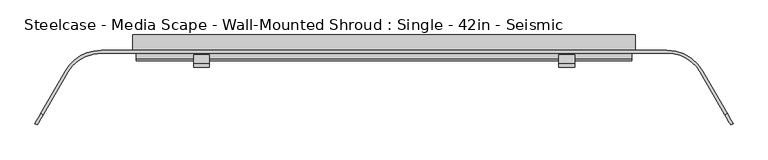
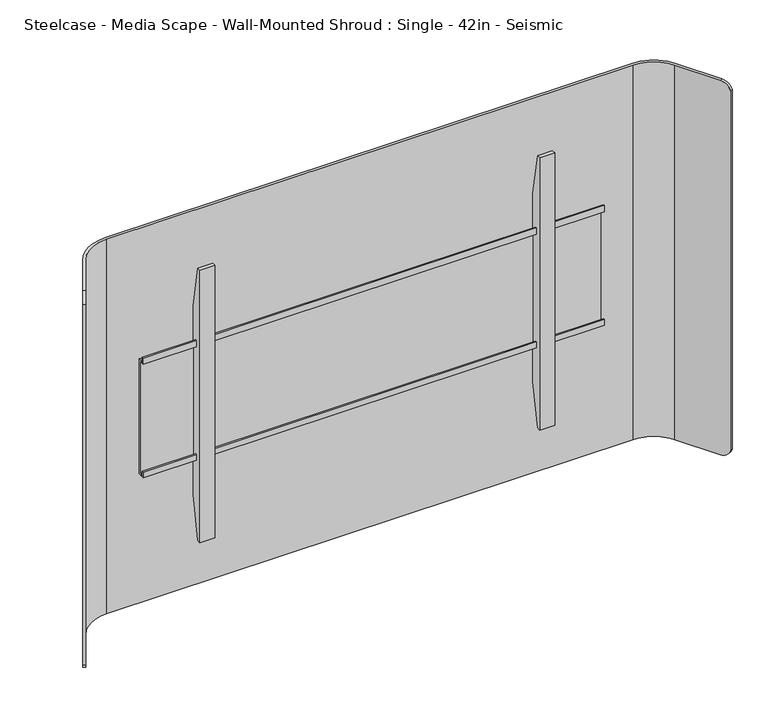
"""IFC4 building model written with IfcOpenShell, lengths in millimetres: furniture geometry, Steelcase - Media Scape - Wall-Mounted Shroud : Single - 42in - Seismic."""

from ifc_helpers import new_model, si_unit, frame, origin, place, context, project, spatial, polyline, circle_curve, outline, extrude, source, transform, mapped, element, save
from ifc_brep_helpers import plane_surface, cylinder_surface, revolved_surface, advanced_brep


def steelcase_media_scape_wall_mounted_shroud_single_42in_ae8f179e(model_context):
    return source(origin(), model_context, "Body", "SolidModel", [
        extrude(outline(polyline([(-42.4942785, 1288.4504726), (-42.4942785, 1300.4645649), (-39.8272175, 1300.4645649), (-39.8272175, 1291.117461), (-29.9720009, 1291.117461), (-29.9720009, 1076.7922438), (-42.3164551, 1076.7922438), (-42.3164551, 1087.7142515), (-39.649394, 1087.7142515), (-39.649394, 1079.457052), (-32.6531824, 1079.457052), (-32.6531824, 1288.4504726), (-42.4942785, 1288.4504726)])), frame((-406.4, 0.0, 0.0), z_axis=(1.0, 0.0, 0.0), x_axis=(0.0, 1.0, 0.0)), (0.0, 0.0, 1.0), 812.8),
        extrude(outline(polyline([(-32.6531824, 1359.3971148), (-32.6531824, 1007.5825607), (-46.5049349, 929.9546949), (-53.3399828, 929.9546949), (-53.3399828, 1437.9547192), (-46.5050076, 1437.9547192), (-32.6531824, 1359.3971148)])), frame((286.6392868, 0.0, 0.0), z_axis=(1.0, 0.0, 0.0), x_axis=(0.0, 1.0, 0.0)), (0.0, 0.0, 1.0), 26.1592872),
        extrude(outline(polyline([(-32.6531824, 1359.3971148), (-32.6531824, 1007.5825607), (-46.5049349, 929.9546949), (-53.3399828, 929.9546949), (-53.3399828, 1437.9547192), (-46.5050076, 1437.9547192), (-32.6531824, 1359.3971148)])), frame((-312.798574, 0.0, 0.0), z_axis=(1.0, 0.0, 0.0), x_axis=(0.0, 1.0, 0.0)), (0.0, 0.0, 1.0), 26.1592872),
        extrude(outline(polyline([(412.75, -25.4), (-412.75, -25.4), (-412.75, 0.0), (412.75, 0.0), (412.75, -25.4)])), frame((0.0, 0.0, 835.914), z_axis=(0.0, 0.0, 1.0), x_axis=(1.0, 0.0, 0.0)), (0.0, 0.0, 1.0), 76.2508167),
        advanced_brep(
        [(-519.5586135, -61.722, 1534.414), (-464.566002, -29.9720009, 1534.414), (464.566, -29.9720009, 1534.414), (519.5586135, -61.722, 1534.414), (559.679586, -131.2135628, 1534.414), (563.6390541, -128.9275628, 1534.414), (523.5180817, -59.436, 1534.414), (464.566002, -25.4, 1534.414), (-464.566, -25.4, 1534.414), (-523.5180817, -59.436, 1534.414), (-563.6421659, -128.9329524, 1534.414), (-559.6826977, -131.2189524, 1534.414), (-523.5180817, -59.436, 835.914), (-464.566002, -25.4, 835.914), (464.566, -25.4, 835.914), (523.5180817, -59.436, 835.914), (563.6906629, -129.0169518, 835.914), (559.7311948, -131.3029518, 835.914), (519.5586135, -61.722, 835.914), (464.566002, -29.9720009, 835.914), (-464.566, -29.9720009, 835.914), (-519.5586135, -61.722, 835.914), (-559.7454014, -131.3275584, 835.914), (-563.7048695, -129.0415584, 835.914), (-573.2090632, -145.5033047, 849.5242766), (-573.2090632, -145.5033047, 1520.4227735), (-569.2495951, -147.7893047, 1520.4227735), (-569.2495951, -147.7893047, 849.5242766), (569.2270866, -147.7503189, 849.4756893), (569.2270866, -147.7503189, 1520.5433849), (573.1865547, -145.4643189, 1520.5433849), (573.1865547, -145.4643189, 849.4756893)],
        [
            (0, 1, circle_curve(frame((-464.566002, -93.4719991, 1534.414), z_axis=(0.0, 0.0, -1.0), x_axis=(0.0, 1.0, 0.0)), 63.4999981)),
            (1, 2),
            (2, 3, circle_curve(frame((464.566002, -93.4719991, 1534.414), z_axis=(0.0, 0.0, -1.0), x_axis=(0.0, 1.0, 0.0)), 63.4999981)),
            (3, 4),
            (4, 5),
            (5, 6),
            (6, 7, circle_curve(frame((464.5660004, -93.472, 1534.414), z_axis=(0.0, 0.0, 1.0), x_axis=(0.0, 1.0, 0.0)), 68.072)),
            (7, 8),
            (8, 9, circle_curve(frame((-464.5660004, -93.472, 1534.414), z_axis=(0.0, 0.0, 1.0), x_axis=(0.0, 1.0, 0.0)), 68.072)),
            (9, 10),
            (10, 11),
            (11, 0),
            (12, 13, circle_curve(frame((-464.5660004, -93.472, 835.914), z_axis=(0.0, 0.0, -1.0), x_axis=(0.0, 1.0, 0.0)), 68.072)),
            (13, 14),
            (14, 15, circle_curve(frame((464.5660004, -93.472, 835.914), z_axis=(0.0, 0.0, -1.0), x_axis=(0.0, 1.0, 0.0)), 68.072)),
            (15, 16),
            (16, 17),
            (17, 18),
            (18, 19, circle_curve(frame((464.566002, -93.4719991, 835.914), z_axis=(0.0, 0.0, 1.0), x_axis=(0.0, 1.0, 0.0)), 63.4999981)),
            (19, 20),
            (20, 21, circle_curve(frame((-464.566002, -93.4719991, 835.914), z_axis=(0.0, 0.0, 1.0), x_axis=(0.0, 1.0, 0.0)), 63.4999981)),
            (21, 22),
            (22, 23),
            (23, 12),
            (0, 21),
            (20, 1),
            (8, 13),
            (12, 9),
            (23, 24, circle_curve(frame((-563.7048695, -129.0415584, 855.9928872), z_axis=(-0.8660254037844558, 0.4999999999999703, 0.0), x_axis=(-0.4999999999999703, -0.8660254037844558, 0.0)), 20.0788872)),
            (24, 25),
            (25, 10, circle_curve(frame((-563.6421659, -128.9329524, 1514.3351128), z_axis=(-0.866025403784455, 0.49999999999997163, 0.0), x_axis=(-0.49999999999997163, -0.866025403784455, 0.0)), 20.0788872)),
            (26, 25),
            (24, 27),
            (27, 26),
            (11, 26, circle_curve(frame((-559.6826977, -131.2189524, 1514.3351128), z_axis=(0.866025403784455, -0.49999999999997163, 0.0), x_axis=(-0.49999999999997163, -0.866025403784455, 0.0)), 20.0788872)),
            (27, 22, circle_curve(frame((-559.7454014, -131.3275584, 855.9928872), z_axis=(0.8660254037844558, -0.4999999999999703, 0.0), x_axis=(-0.4999999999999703, -0.8660254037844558, 0.0)), 20.0788872)),
            (7, 14),
            (19, 2),
            (3, 18),
            (17, 28, circle_curve(frame((559.7311948, -131.3029518, 855.9928872), z_axis=(-0.8660254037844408, -0.4999999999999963, 0.0), x_axis=(0.4999999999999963, -0.8660254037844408, 0.0)), 20.0788872)),
            (28, 29),
            (29, 4, circle_curve(frame((559.679586, -131.2135628, 1514.3351128), z_axis=(-0.86602540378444, -0.4999999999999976, 0.0), x_axis=(0.4999999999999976, -0.86602540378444, 0.0)), 20.0788872)),
            (30, 29),
            (28, 31),
            (31, 30),
            (15, 6),
            (5, 30, circle_curve(frame((563.6390541, -128.9275628, 1514.3351128), z_axis=(0.86602540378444, 0.4999999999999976, 0.0), x_axis=(0.4999999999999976, -0.86602540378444, 0.0)), 20.0788872)),
            (31, 16, circle_curve(frame((563.6906629, -129.0169518, 855.9928872), z_axis=(0.8660254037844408, 0.4999999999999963, 0.0), x_axis=(0.4999999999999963, -0.8660254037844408, 0.0)), 20.0788872)),
        ],
        [
            plane_surface(frame((-464.566002, -29.9720009, 1534.414), z_axis=(0.0, 0.0, 1.0), x_axis=(1.0, 0.0, 0.0))),
            plane_surface(frame((-464.566002, -29.9720009, 835.914), z_axis=(0.0, 0.0, -1.0), x_axis=(-1.0, 0.0, 0.0))),
            revolved_surface(polyline([(-464.566002, -29.972001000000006, 835.914), (-464.566002, -29.972001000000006, 1534.414)]), (-464.566002, -93.4719991, 835.914), (0.0, 0.0, -1.0)),
            cylinder_surface(frame((-464.5660004, -93.472, 835.914), z_axis=(0.0, 0.0, 1.0), x_axis=(0.0, 1.0, 0.0)), 68.072),
            plane_surface(frame((-523.5180817, -59.436, 1534.414), z_axis=(-0.866025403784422, 0.5000000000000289, 0.0), x_axis=(0.0, 0.0, -1.0))),
            plane_surface(frame((-573.2090632, -145.5033047, 1534.414), z_axis=(-0.5000000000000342, -0.866025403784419, 0.0), x_axis=(0.0, 0.0, -1.0))),
            plane_surface(frame((-569.2495951, -147.7893047, 1534.414), z_axis=(0.8660254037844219, -0.500000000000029, 0.0), x_axis=(0.0, 0.0, -1.0))),
            plane_surface(frame((464.566, -25.4, 1534.414), z_axis=(0.0, 1.0, 0.0), x_axis=(0.0, 0.0, -1.0))),
            plane_surface(frame((-464.566, -29.9720009, 1534.414), z_axis=(0.0, -1.0, 0.0), x_axis=(0.0, 0.0, -1.0))),
            plane_surface(frame((519.5586135, -61.722, 1534.414), z_axis=(-0.8660254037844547, -0.4999999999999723, 0.0), x_axis=(0.0, 0.0, -1.0))),
            plane_surface(frame((569.2270866, -147.7503189, 1534.414), z_axis=(0.4999999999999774, -0.8660254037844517, 0.0), x_axis=(0.0, 0.0, -1.0))),
            plane_surface(frame((573.1865547, -145.4643189, 1534.414), z_axis=(0.8660254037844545, 0.49999999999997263, 0.0), x_axis=(0.0, 0.0, -1.0))),
            cylinder_surface(frame((464.5660004, -93.472, 835.914), z_axis=(0.0, 0.0, 1.0), x_axis=(0.0, 1.0, 0.0)), 68.072),
            revolved_surface(polyline([(464.566002, -29.972001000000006, 835.914), (464.566002, -29.972001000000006, 1534.414)]), (464.566002, -93.4719991, 835.914), (0.0, 0.0, -1.0)),
            cylinder_surface(frame((-559.6826977, -131.2189524, 1514.3351128), z_axis=(0.866025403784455, -0.49999999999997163, 0.0), x_axis=(-0.49999999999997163, -0.866025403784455, 0.0)), 20.0788872),
            cylinder_surface(frame((-559.7454014, -131.3275584, 855.9928872), z_axis=(0.8660254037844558, -0.4999999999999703, 0.0), x_axis=(-0.4999999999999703, -0.8660254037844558, 0.0)), 20.0788872),
            cylinder_surface(frame((574.7864297, -122.4916225, 1514.3351128), z_axis=(0.86602540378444, 0.4999999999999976, 0.0), x_axis=(0.4999999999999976, -0.86602540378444, 0.0)), 20.0788872),
            cylinder_surface(frame((571.9789695, -124.2316958, 855.9928872), z_axis=(0.8660254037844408, 0.4999999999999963, 0.0), x_axis=(0.4999999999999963, -0.8660254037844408, 0.0)), 20.0788872),
        ],
        [
            (0, [[1, 2, 3, 4, 5, 6, 7, 8, 9, 10, 11, 12]]),
            (1, [[13, 14, 15, 16, 17, 18, 19, 20, 21, 22, 23, 24]]),
            (2, [[-1, 25, -21, 26]]),
            (3, [[-9, 27, -13, 28]]),
            (4, [[-28, -24, 29, 30, 31, -10]]),
            (5, [[32, -30, 33, 34]]),
            (6, [[-25, -12, 35, -34, 36, -22]]),
            (7, [[-8, 37, -14, -27]]),
            (8, [[-2, -26, -20, 38]]),
            (9, [[39, -18, 40, 41, 42, -4]]),
            (10, [[43, -41, 44, 45]]),
            (11, [[46, -6, 47, -45, 48, -16]]),
            (12, [[-7, -46, -15, -37]]),
            (13, [[-3, -38, -19, -39]]),
            (14, [[-11, -31, -32, -35]]),
            (15, [[-23, -36, -33, -29]]),
            (16, [[-5, -42, -43, -47]]),
            (17, [[-17, -48, -44, -40]]),
        ],
    ),
        extrude(outline(polyline([(912.1648167, 349.2499879), (912.1648167, 412.75), (1458.214, 412.75), (1458.214, -412.75), (912.1648167, -412.75), (912.1648167, -350.2433465), (1394.7139516, -350.2433465), (1394.7139516, 349.2499879), (912.1648167, 349.2499879)])), frame((0.0, -25.4, 0.0), z_axis=(0.0, 1.0, 0.0), x_axis=(0.0, 0.0, 1.0)), (0.0, 0.0, 1.0), 25.4),
    ])


if __name__ == "__main__":
    model = new_model("IFC4")
    model_context = context("Model", 3, world=origin())
    ifc_project = project(units=[si_unit("LENGTHUNIT", "METRE", prefix="MILLI")], contexts=[model_context])
    site = spatial("IfcSite", under=ifc_project)
    building = spatial("IfcBuilding", under=site)
    placement = place(None, origin())
    steelcase_media_scape_wall_mounted_shroud_single_42in_shape = steelcase_media_scape_wall_mounted_shroud_single_42in_ae8f179e(model_context)
    element("IfcFurniture", 1, ObjectType="Steelcase - Media Scape - Wall-Mounted Shroud : Single - 42in - Seismic", at=placement, inside=building, context=model_context, shape_type="MappedRepresentation", body=[
        mapped(steelcase_media_scape_wall_mounted_shroud_single_42in_shape, transform((0.0, 0.0, 0.0), x_axis=(1.0, 0.0, 0.0), y_axis=(0.0, 1.0, 0.0), z_axis=(0.0, 0.0, 1.0))),
    ])
    save(model, "model.ifc")
